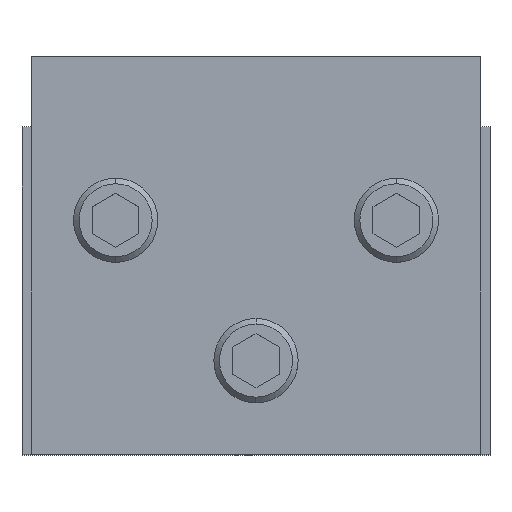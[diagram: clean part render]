
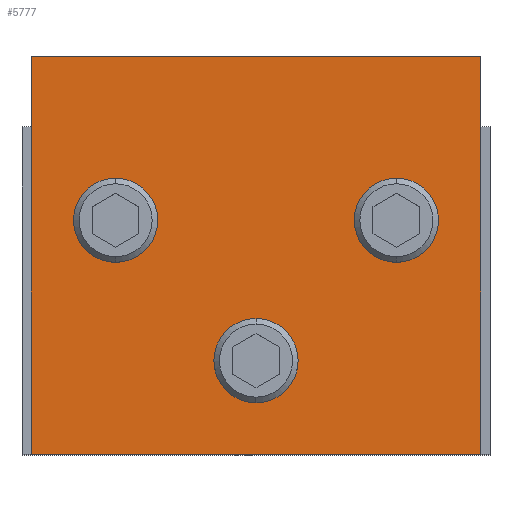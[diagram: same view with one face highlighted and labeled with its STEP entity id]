
A CAD part, top view. The second image highlights one B-rep face of the part: STEP entity #5777.
In plain terms, the highlighted planar face has unit normal (0, 0, 1).
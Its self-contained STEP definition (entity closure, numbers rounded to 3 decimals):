
#5552=VERTEX_POINT(' ',#5553);
#5553=CARTESIAN_POINT('',(48.,85.,140.));
#5554=VERTEX_POINT(' ',#5555);
#5555=CARTESIAN_POINT('',(-48.,85.,140.));
#5556=VERTEX_POINT(' ',#5557);
#5557=CARTESIAN_POINT('',(-48.,0.,140.));
#5558=VERTEX_POINT(' ',#5559);
#5559=CARTESIAN_POINT('',(48.,0.,140.));
#5560=VERTEX_POINT(' ',#5561);
#5561=CARTESIAN_POINT('',(0.,26.5,140.));
#5562=VERTEX_POINT(' ',#5563);
#5563=CARTESIAN_POINT('',(0.,13.5,140.));
#5564=VERTEX_POINT(' ',#5565);
#5565=CARTESIAN_POINT('',(-30.,56.5,140.));
#5566=VERTEX_POINT(' ',#5567);
#5567=CARTESIAN_POINT('',(-30.,43.5,140.));
#5568=VERTEX_POINT(' ',#5569);
#5569=CARTESIAN_POINT('',(30.,56.5,140.));
#5570=VERTEX_POINT(' ',#5571);
#5571=CARTESIAN_POINT('',(30.,43.5,140.));
#5592=LINE('',#5593,#5594);
#5593=CARTESIAN_POINT('',(48.,85.,140.));
#5594=VECTOR('',#5595,1.);
#5595=DIRECTION('',(-1.,0.,0.));
#5596=EDGE_CURVE(' ',#5552,#5554,#5592,.T.);
#5597=LINE('',#5598,#5599);
#5598=CARTESIAN_POINT('',(-48.,85.,140.));
#5599=VECTOR('',#5600,1.);
#5600=DIRECTION('',(0.,-1.,0.));
#5601=EDGE_CURVE(' ',#5554,#5556,#5597,.T.);
#5602=LINE('',#5603,#5604);
#5603=CARTESIAN_POINT('',(-48.,0.,140.));
#5604=VECTOR('',#5605,1.);
#5605=DIRECTION('',(1.,0.,0.));
#5606=EDGE_CURVE(' ',#5556,#5558,#5602,.T.);
#5607=LINE('',#5608,#5609);
#5608=CARTESIAN_POINT('',(48.,0.,140.));
#5609=VECTOR('',#5610,1.);
#5610=DIRECTION('',(0.,1.,0.));
#5611=EDGE_CURVE(' ',#5558,#5552,#5607,.T.);
#5612=CIRCLE('',#5613,6.5);
#5613=AXIS2_PLACEMENT_3D('',#5614,#5615,#5616);
#5614=CARTESIAN_POINT('',(0.,20.,140.));
#5615=DIRECTION('',(0.,0.,-1.));
#5616=DIRECTION('',(-1.,0.,0.));
#5617=EDGE_CURVE(' ',#5560,#5562,#5612,.T.);
#5618=CIRCLE('',#5619,6.5);
#5619=AXIS2_PLACEMENT_3D('',#5620,#5621,#5622);
#5620=CARTESIAN_POINT('',(0.,20.,140.));
#5621=DIRECTION('',(0.,0.,-1.));
#5622=DIRECTION('',(1.,0.,0.));
#5623=EDGE_CURVE(' ',#5562,#5560,#5618,.T.);
#5624=CIRCLE('',#5625,6.5);
#5625=AXIS2_PLACEMENT_3D('',#5626,#5627,#5628);
#5626=CARTESIAN_POINT('',(-30.,50.,140.));
#5627=DIRECTION('',(0.,0.,-1.));
#5628=DIRECTION('',(-1.,0.,0.));
#5629=EDGE_CURVE(' ',#5564,#5566,#5624,.T.);
#5630=CIRCLE('',#5631,6.5);
#5631=AXIS2_PLACEMENT_3D('',#5632,#5633,#5634);
#5632=CARTESIAN_POINT('',(-30.,50.,140.));
#5633=DIRECTION('',(0.,0.,-1.));
#5634=DIRECTION('',(1.,0.,0.));
#5635=EDGE_CURVE(' ',#5566,#5564,#5630,.T.);
#5636=CIRCLE('',#5637,6.5);
#5637=AXIS2_PLACEMENT_3D('',#5638,#5639,#5640);
#5638=CARTESIAN_POINT('',(30.,50.,140.));
#5639=DIRECTION('',(0.,0.,-1.));
#5640=DIRECTION('',(-1.,0.,0.));
#5641=EDGE_CURVE(' ',#5568,#5570,#5636,.T.);
#5642=CIRCLE('',#5643,6.5);
#5643=AXIS2_PLACEMENT_3D('',#5644,#5645,#5646);
#5644=CARTESIAN_POINT('',(30.,50.,140.));
#5645=DIRECTION('',(0.,0.,-1.));
#5646=DIRECTION('',(1.,0.,0.));
#5647=EDGE_CURVE(' ',#5570,#5568,#5642,.T.);
#5754=ORIENTED_EDGE('',*,*,#5596,.T.);
#5755=ORIENTED_EDGE('',*,*,#5601,.T.);
#5756=ORIENTED_EDGE('',*,*,#5606,.T.);
#5757=ORIENTED_EDGE('',*,*,#5611,.T.);
#5758=EDGE_LOOP('',(#5754,#5755,#5756,#5757));
#5759=FACE_OUTER_BOUND('',#5758,.T.);
#5760=ORIENTED_EDGE('',*,*,#5617,.T.);
#5761=ORIENTED_EDGE('',*,*,#5623,.T.);
#5762=EDGE_LOOP('',(#5760,#5761));
#5763=FACE_BOUND('',#5762,.T.);
#5764=ORIENTED_EDGE('',*,*,#5629,.T.);
#5765=ORIENTED_EDGE('',*,*,#5635,.T.);
#5766=EDGE_LOOP('',(#5764,#5765));
#5767=FACE_BOUND('',#5766,.T.);
#5768=ORIENTED_EDGE('',*,*,#5641,.T.);
#5769=ORIENTED_EDGE('',*,*,#5647,.T.);
#5770=EDGE_LOOP('',(#5768,#5769));
#5771=FACE_BOUND('',#5770,.T.);
#5772=PLANE('',#5773);
#5773=AXIS2_PLACEMENT_3D('',#5774,#5775,#5776);
#5774=CARTESIAN_POINT('',(48.,85.,140.));
#5775=DIRECTION('',(0.,0.,1.));
#5776=DIRECTION('',(1.,0.,0.));
#5777=ADVANCED_FACE('',(#5759,#5763,#5767,#5771),#5772,.T.);
